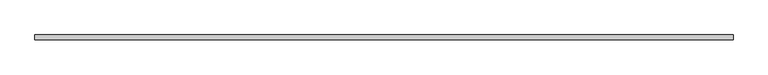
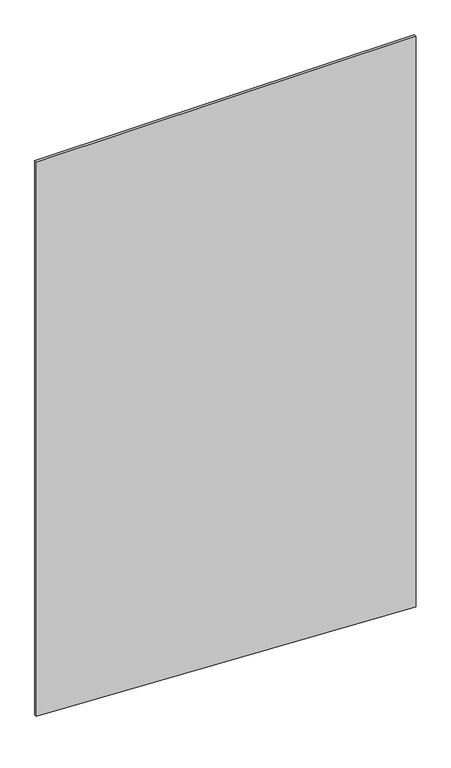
"""IFC4 building model written with IfcOpenShell, lengths in millimetres: plate geometry, 系統嵌板 : 玻璃 1.0cm."""

from ifc_helpers import new_model, si_unit, frame, origin, place, context, project, spatial, polyline, outline, extrude, source, transform, mapped, element, save


def plate_a44f30e2(model_context):
    return source(origin(), model_context, "Body", "SweptSolid", [
        extrude(outline(polyline([(68.0025528, -750.0), (0.0, 750.0), (2384.3286302, 750.0), (2384.3286302, -750.0), (68.0025528, -750.0)])), frame((0.0, -5.0, 0.0), z_axis=(0.0, 1.0, 0.0), x_axis=(0.0, 0.0, 1.0)), (0.0, 0.0, 1.0), 10.0),
    ])


if __name__ == "__main__":
    model = new_model("IFC4")
    model_context = context("Model", 3, world=origin())
    ifc_project = project(units=[si_unit("LENGTHUNIT", "METRE", prefix="MILLI")], contexts=[model_context])
    site = spatial("IfcSite", under=ifc_project)
    building = spatial("IfcBuilding", under=site)
    placement = place(None, origin())
    plate_shape = plate_a44f30e2(model_context)
    element("IfcPlate", 1, ObjectType="系統嵌板 : 玻璃 1.0cm", at=placement, inside=building, context=model_context, shape_type="MappedRepresentation", body=[
        mapped(plate_shape, transform((0.0, 0.0, 0.0), x_axis=(1.0, 0.0, 0.0), y_axis=(0.0, 1.0, 0.0), z_axis=(0.0, 0.0, 1.0))),
    ])
    save(model, "model.ifc")
